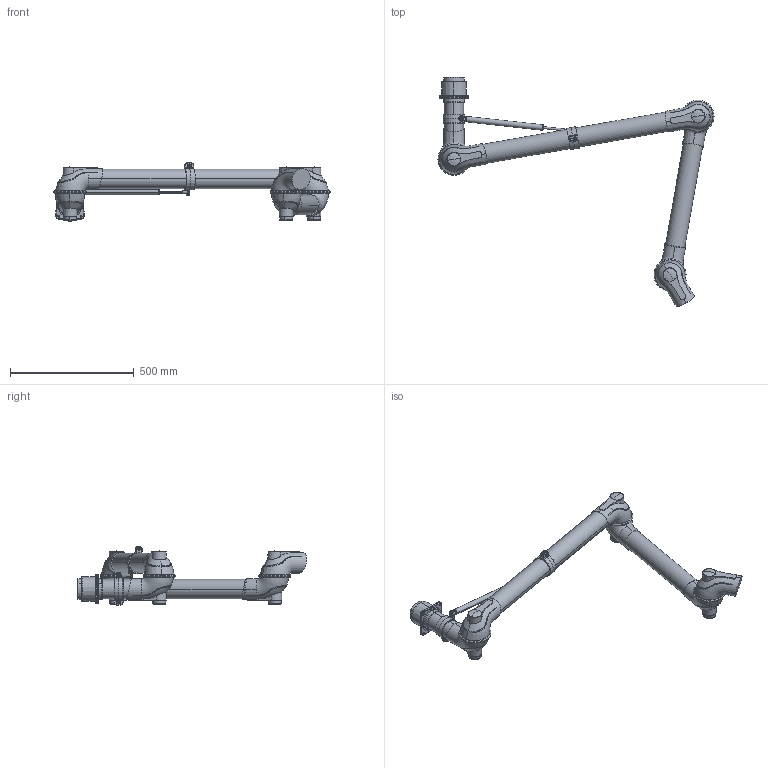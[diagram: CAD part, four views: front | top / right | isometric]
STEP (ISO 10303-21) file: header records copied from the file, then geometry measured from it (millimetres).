
FILE_DESCRIPTION((''),'2;1');
FILE_NAME('102343','2015-10-05T',('Tomas Bellgran'),(''),'PRO/ENGINEER BY PARAMETRIC TECHNOLOGY CORPORATION, 2013410','PRO/ENGINEER BY PARAMETRIC TECHNOLOGY CORPORATION, 2013410','');
FILE_SCHEMA(('AUTOMOTIVE_DESIGN { 1 0 10303 214 1 1 1 1 }'));
Length unit declared in the file: millimetre
Products named in the file (30): 100350; 100455; 102184; 105-5475-01; 102320; 9529063; 102181; 102325; 102188; 102314; 105-5475-02; 105-5481; 101156; 102312; 105-561-01; 105-562-01; 9900438; 105-560-01; 9900055; GAS_SPRING_BANBACH_CYLB; GAS_SPRING_BANBACH-TUBE_AF0; 100342; GAS_SPRING_BANBACH_ROD; GAS_SPRING_BANBACH_RODHEAD; 100342-REF; LOCK_NUT_M8_DIN985; LOCK_NUT_M8_DIN985_PL; 100107; 9924051; 102343
Assembly tree (43 placements, depth 4):
  102343
    102320
      100350
      100455  x2
      102184
      105-5475-01
    9529063
    102325
      105-5475-01  x2
      102181
    102314
      102188
      105-5475-01
    102312
      105-5475-02  x2
      9529063
      101156
        105-5481
    101156  x2
      105-5481
    105-560-01  x2
      105-561-01
      105-562-01
      9900438
    9900055  x4
    100342
      GAS_SPRING_BANBACH_CYLB
      GAS_SPRING_BANBACH-TUBE_AF0
    100342-REF
      GAS_SPRING_BANBACH_ROD
      GAS_SPRING_BANBACH_RODHEAD
    100107  x2
      LOCK_NUT_M8_DIN985
      LOCK_NUT_M8_DIN985_PL
    9924051  x2
Bounding box: 1114.32 x 924.4 x 235.4 mm (x, y, z)
Volume: 15171647.4 mm3; surface area: 1128060.1 mm2
Topology: 37 solids, 38 shells, 1108 faces, 2708 edges, 1689 vertices
Faces by surface type: plane 326, cone 287, bspline 256, cylinder 128, torus 86, sphere 25
Entity records: 58596 total; most frequent: CARTESIAN_POINT 30491, ORIENTED_EDGE 2906, DIRECTION 2442, PRESENTATION_STYLE_ASSIGNMENT 1789, STYLED_ITEM 1784, EDGE_CURVE 1453, CURVE_STYLE 1429, PROPERTY_DEFINITION 1358
